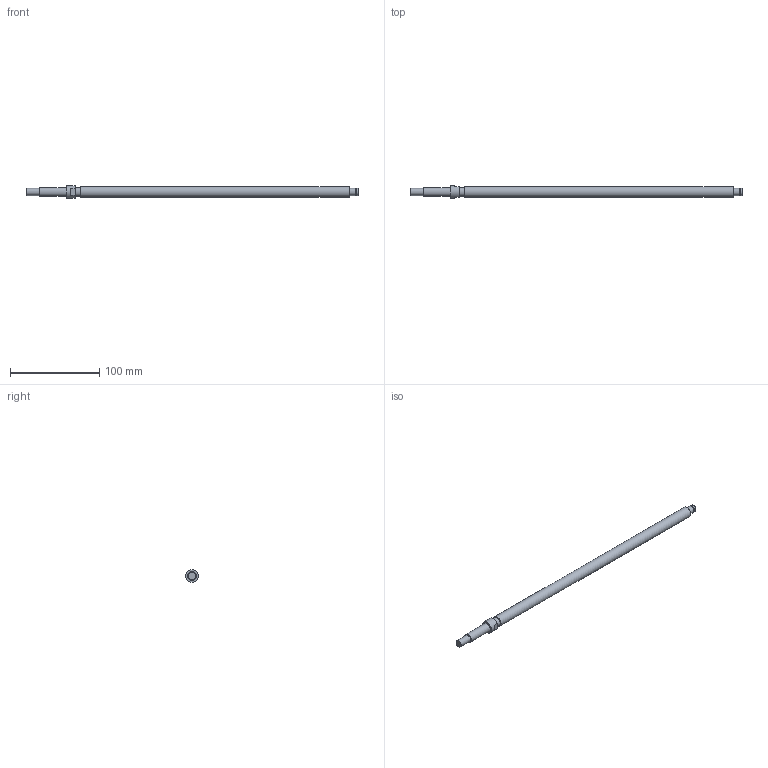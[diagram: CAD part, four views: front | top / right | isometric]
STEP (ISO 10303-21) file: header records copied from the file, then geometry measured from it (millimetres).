
FILE_DESCRIPTION((''),'2;1');
FILE_NAME('D:\製品 (図面)\カタログ用3D\ネジ関連\STEP形式\JK\JK12.stp','2010-06-11T10:46:53',('Tsuchiya'),(''),'Autodesk Inventor 10','Autodesk Inventor 10','');
FILE_SCHEMA(('AUTOMOTIVE_DESIGN { 1 0 10303 214 1 1 1 1 }'));
Length unit declared in the file: millimetre
Products named in the file (1): JK12
Bounding box: 371 x 14 x 14 mm (x, y, z)
Volume: 39499.4 mm3; surface area: 13890.9 mm2
Topology: 1 solids, 1 shells, 21 faces, 36 edges, 24 vertices
Faces by surface type: plane 13, cylinder 8
Full cylindrical faces by diameter (mm): 7.6 x1, 8 x3, 10 x2, 12 x1, 14 x1
Entity records: 483 total; most frequent: DIRECTION 90, CARTESIAN_POINT 72, ORIENTED_EDGE 54, AXIS2_PLACEMENT_3D 41, EDGE_LOOP 36, EDGE_CURVE 27, VERTEX_POINT 23, FACE_OUTER_BOUND 21
